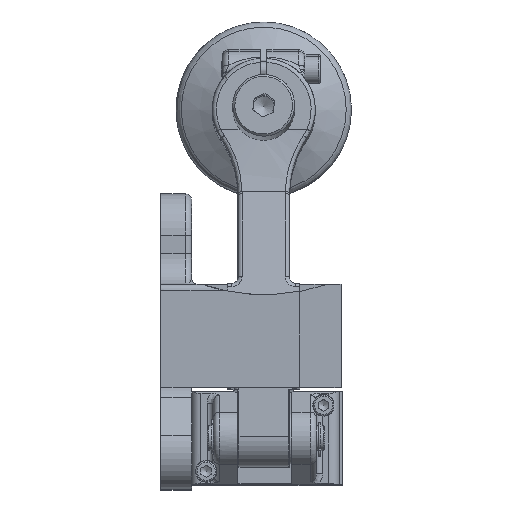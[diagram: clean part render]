
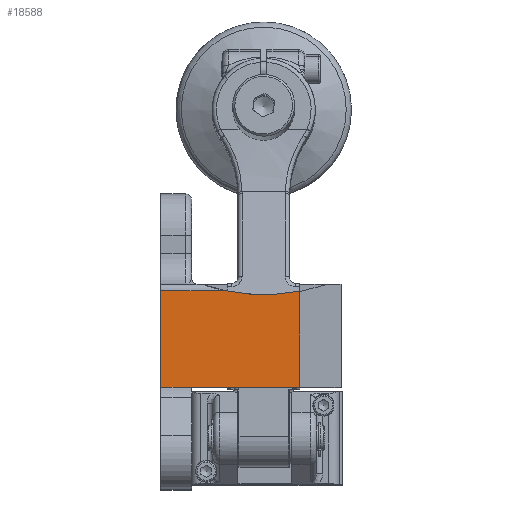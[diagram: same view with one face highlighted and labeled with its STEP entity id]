
A CAD part, top view. The second image highlights one B-rep face of the part: STEP entity #18588.
In plain terms, the highlighted planar face has unit normal (0, 0, 1).
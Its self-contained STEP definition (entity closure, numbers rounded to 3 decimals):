
#1448=CIRCLE('',#20231,92.);
#2434=FACE_OUTER_BOUND('',#3487,.T.);
#3487=EDGE_LOOP('',(#14035,#14036,#14037,#14038,#14039,#14040,#14041));
#4639=LINE('',#33498,#5888);
#4640=LINE('',#33500,#5889);
#4641=LINE('',#33502,#5890);
#4642=LINE('',#33504,#5891);
#4643=LINE('',#33506,#5892);
#4644=LINE('',#33507,#5893);
#5888=VECTOR('',#24131,10.);
#5889=VECTOR('',#24132,10.);
#5890=VECTOR('',#24133,10.);
#5891=VECTOR('',#24134,10.);
#5892=VECTOR('',#24135,10.);
#5893=VECTOR('',#24136,10.);
#7753=VERTEX_POINT('',#33447);
#7754=VERTEX_POINT('',#33464);
#7762=VERTEX_POINT('',#33497);
#7763=VERTEX_POINT('',#33499);
#7764=VERTEX_POINT('',#33501);
#7765=VERTEX_POINT('',#33503);
#7766=VERTEX_POINT('',#33505);
#10036=EDGE_CURVE('',#7754,#7753,#1448,.T.);
#10048=EDGE_CURVE('',#7762,#7753,#4639,.T.);
#10049=EDGE_CURVE('',#7763,#7762,#4640,.T.);
#10050=EDGE_CURVE('',#7764,#7763,#4641,.T.);
#10051=EDGE_CURVE('',#7765,#7764,#4642,.T.);
#10052=EDGE_CURVE('',#7766,#7765,#4643,.T.);
#10053=EDGE_CURVE('',#7754,#7766,#4644,.T.);
#14035=ORIENTED_EDGE('',*,*,#10036,.T.);
#14036=ORIENTED_EDGE('',*,*,#10048,.F.);
#14037=ORIENTED_EDGE('',*,*,#10049,.F.);
#14038=ORIENTED_EDGE('',*,*,#10050,.F.);
#14039=ORIENTED_EDGE('',*,*,#10051,.F.);
#14040=ORIENTED_EDGE('',*,*,#10052,.F.);
#14041=ORIENTED_EDGE('',*,*,#10053,.F.);
#16911=PLANE('',#20238);
#18588=ADVANCED_FACE('',(#2434),#16911,.T.);
#20231=AXIS2_PLACEMENT_3D('',#33465,#24108,#24109);
#20238=AXIS2_PLACEMENT_3D('',#33496,#24129,#24130);
#24108=DIRECTION('center_axis',(0.,0.,-1.));
#24109=DIRECTION('ref_axis',(1.,0.,0.));
#24129=DIRECTION('center_axis',(0.,0.,1.));
#24130=DIRECTION('ref_axis',(1.,0.,0.));
#24131=DIRECTION('',(1.,0.,0.));
#24132=DIRECTION('',(0.,1.,0.));
#24133=DIRECTION('',(-1.,0.,0.));
#24134=DIRECTION('',(-1.,0.,0.));
#24135=DIRECTION('',(0.,-1.,0.));
#24136=DIRECTION('',(0.,-1.,0.));
#33447=CARTESIAN_POINT('',(30.921,47.,80.));
#33464=CARTESIAN_POINT('',(67.5,46.68,80.));
#33465=CARTESIAN_POINT('Origin',(50.,137.,80.));
#33496=CARTESIAN_POINT('Origin',(26.598,39.848,80.));
#33497=CARTESIAN_POINT('',(0.,47.,80.));
#33498=CARTESIAN_POINT('',(20.799,47.,80.));
#33499=CARTESIAN_POINT('',(0.,0.,80.));
#33500=CARTESIAN_POINT('',(0.,94.,80.));
#33501=CARTESIAN_POINT('',(15.,0.,80.));
#33502=CARTESIAN_POINT('',(0.,0.,80.));
#33503=CARTESIAN_POINT('',(67.5,0.,80.));
#33504=CARTESIAN_POINT('',(0.,0.,80.));
#33505=CARTESIAN_POINT('',(67.5,46.444,80.));
#33506=CARTESIAN_POINT('',(67.5,0.,80.));
#33507=CARTESIAN_POINT('',(67.5,0.,80.));
